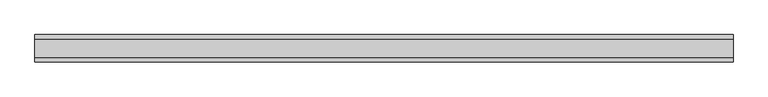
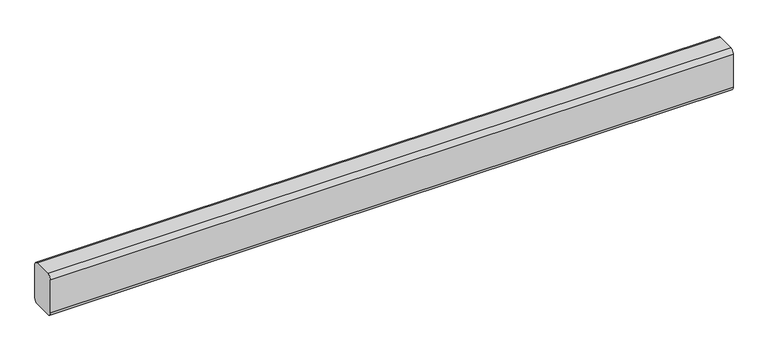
"""IFC4 building model written with IfcOpenShell, lengths in millimetres: proxy geometry, GROUTED CMU CELLS_horizontal : GROUTED CMU CELLS_horizontal."""

from ifc_helpers import new_model, si_unit, point, frame, frame_2d, origin, place, context, project, spatial, polyline, circle_curve, trimmed, segment, composite_curve, outline, extrude, source, transform, mapped, element, save


def generic_models_0712a437(model_context):
    return source(origin(), model_context, "Body", "SweptSolid", [
        extrude(outline(composite_curve([segment(trimmed(circle_curve(frame_2d((34.925, -66.675)), 15.875), [point((50.8, -66.675))], [point((34.925, -82.55))], False, "CARTESIAN"), True, "CONTINUOUS"), segment(polyline([(34.925, -82.55), (-34.925, -82.55)]), True, "CONTINUOUS"), segment(trimmed(circle_curve(frame_2d((-34.925, -66.675)), 15.875), [point((-34.925, -82.55))], [point((-50.8, -66.675))], False, "CARTESIAN"), True, "CONTINUOUS"), segment(polyline([(-50.8, -66.675), (-50.8, 66.675)]), True, "CONTINUOUS"), segment(trimmed(circle_curve(frame_2d((-34.925, 66.675)), 15.875), [point((-50.8, 66.675))], [point((-34.925, 82.55))], False, "CARTESIAN"), True, "CONTINUOUS"), segment(polyline([(-34.925, 82.55), (34.925, 82.55)]), True, "CONTINUOUS"), segment(trimmed(circle_curve(frame_2d((34.925, 66.675)), 15.875), [point((34.925, 82.55))], [point((50.8, 66.675))], False, "CARTESIAN"), True, "CONTINUOUS"), segment(polyline([(50.8, 66.675), (50.8, -66.675)]), True, "CONTINUOUS")], self_intersect=False)), frame((0.0, 0.0, 0.0), z_axis=(1.0, 0.0, 0.0), x_axis=(0.0, 1.0, 0.0)), (0.0, 0.0, 1.0), 2597.15),
    ])


if __name__ == "__main__":
    model = new_model("IFC4")
    model_context = context("Model", 3, world=origin())
    ifc_project = project(units=[si_unit("LENGTHUNIT", "METRE", prefix="MILLI")], contexts=[model_context])
    site = spatial("IfcSite", under=ifc_project)
    building = spatial("IfcBuilding", under=site)
    placement = place(None, origin())
    generic_models_shape = generic_models_0712a437(model_context)
    element("IfcBuildingElementProxy", 1, Name="GROUTED CMU CELLS_horizontal : GROUTED CMU CELLS_horizontal", ObjectType="GROUTED CMU CELLS_horizontal : GROUTED CMU CELLS_horizontal", at=placement, inside=building, context=model_context, shape_type="MappedRepresentation", body=[
        mapped(generic_models_shape, transform((0.0, 0.0, 0.0), x_axis=(1.0, 0.0, 0.0), y_axis=(0.0, 1.0, 0.0), z_axis=(0.0, 0.0, 1.0))),
    ])
    save(model, "model.ifc")
